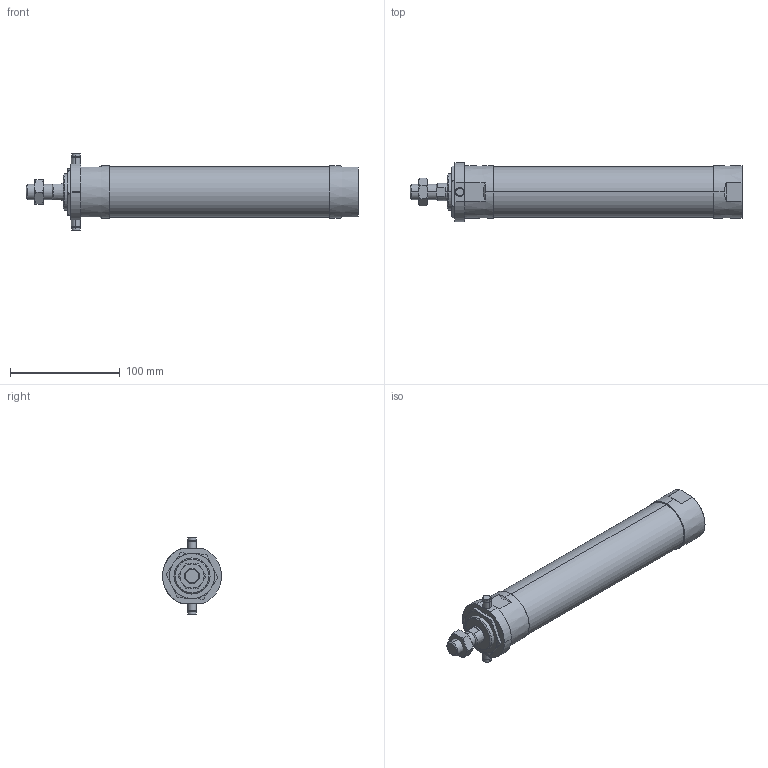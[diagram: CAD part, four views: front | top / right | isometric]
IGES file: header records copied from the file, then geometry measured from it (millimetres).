
Start section: SolidWorks IGES file using analytic representation for surfaces
Global section: file name: C:\Users\Toshiba\Desktop\JGND2-40-150-T.IGS; native system: SolidWorks 2014; preprocessor: SolidWorks 2014; author: Toshiba; date: 160804.112103; units: millimetre
Bounding box: 303 x 54 x 70 mm (x, y, z)
Surface area: 54351.7 mm2 (no closed solid volume)
Topology: 0 solids, 0 shells, 116 faces, 2138 edges, 2134 vertices
Faces by surface type: bspline 62, revolution 54
